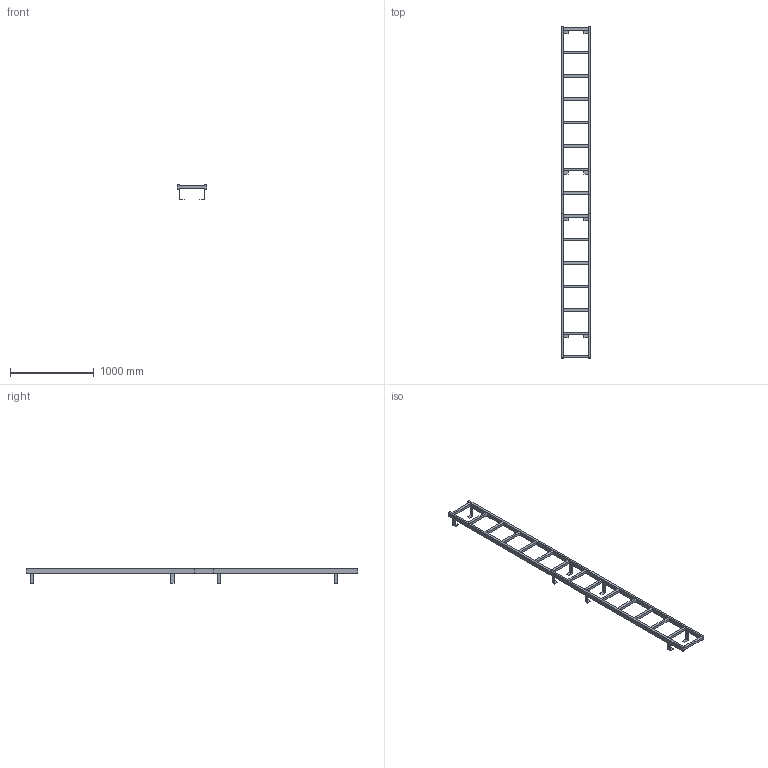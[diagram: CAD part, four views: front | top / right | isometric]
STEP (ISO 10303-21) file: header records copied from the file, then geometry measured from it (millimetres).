
FILE_DESCRIPTION((''),'2;1');
FILE_NAME('52310912','2024-10-17T11:54:15',('wep'),('HUBER SE'),'CREO PARAMETRIC BY PTC INC, 2022162','CREO PARAMETRIC BY PTC INC, 2022162','');
FILE_SCHEMA(('AUTOMOTIVE_DESIGN { 1 0 10303 214 1 1 1 1 }'));
Length unit declared in the file: millimetre
Products named in the file (1): 52310912
Bounding box: 350 x 3970 x 178.5 mm (x, y, z)
Volume: 15493850 mm3; surface area: 1951170.4 mm2
Topology: 4 solids, 4 shells, 156 faces, 444 edges, 288 vertices
Faces by surface type: plane 156
Entity records: 5551 total; most frequent: CARTESIAN_POINT 890, ORIENTED_EDGE 888, DIRECTION 756, VECTOR 444, LINE 444, EDGE_CURVE 444, VERTEX_POINT 288, EDGE_LOOP 174
